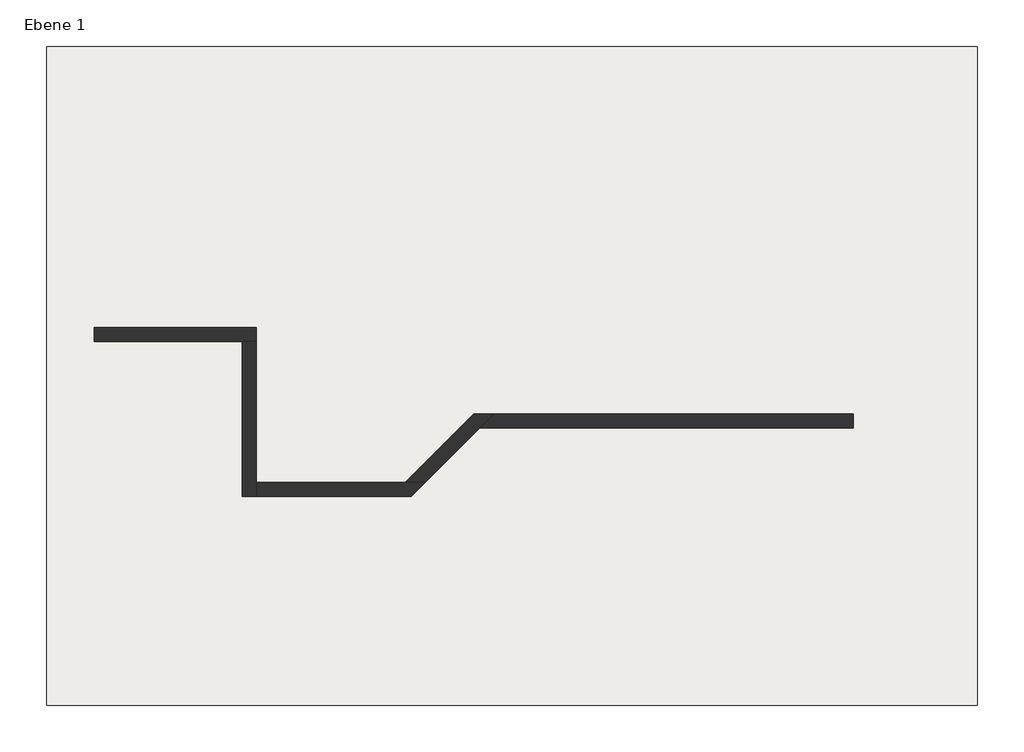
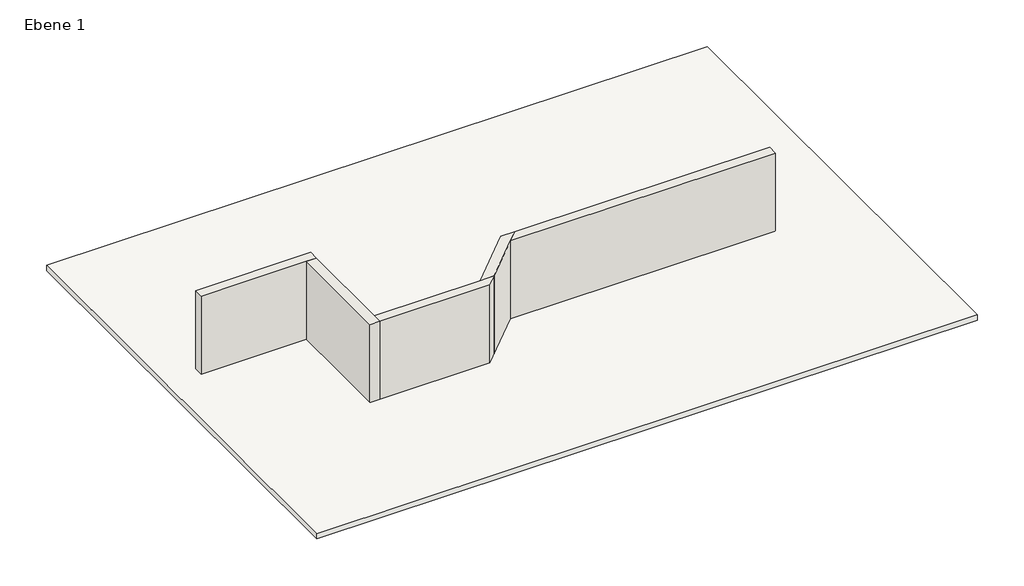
# One storey: 5 walls, 1 slab.
"""IFC4 building model written with IfcOpenShell, lengths in millimetres."""

from ifc_helpers import new_model, si_unit, frame, origin, place, context, project, spatial, polyline, outline, extrude, faceted_brep, element, save

model = new_model("IFC4")

# Units and contexts
model_context = context("Model", 3, world=origin())
ifc_project = project(units=[si_unit("LENGTHUNIT", "METRE", prefix="MILLI")], contexts=[model_context])

# Site, building, storey
site = spatial("IfcSite", under=ifc_project)
building = spatial("IfcBuilding", under=site)
storey = spatial("IfcBuildingStorey", under=building, Name="Ebene 1", Elevation=3000.0)

# Slab
placement = place(None, origin())
element("IfcSlab", 1, ObjectType="STB 20.0", at=placement, inside=storey, context=model_context, shape_type="SweptSolid", body=[
    extrude(outline(polyline([(11887.0989468, 9457.1393302), (11887.0989468, -7542.8606698), (-12112.9010532, -7542.8606698), (-12112.9010532, 9457.1393302), (11887.0989468, 9457.1393302)])), frame((0.0, 0.0, 2800.0), z_axis=(0.0, 0.0, 1.0), x_axis=(1.0, 0.0, 0.0)), (0.0, 0.0, 1.0), 200.0),
])

# Walls
element("IfcWall", 2, ObjectType="MW 24.0 WD 12.0", at=placement, inside=storey, context=model_context, shape_type="Brep", body=[
    faceted_brep([(-10886.8777954, 1847.7263672, 3000.0), (-7066.8777954, 1847.7263672, 3000.0), (-6706.8777954, 1847.7263672, 3000.0), (-6706.8777954, 1847.7263672, 6000.0), (-7066.8777954, 1847.7263672, 6000.0), (-10886.8777954, 1847.7263672, 6000.0), (-10886.8777954, 2207.7263672, 3000.0), (-10886.8777954, 2207.7263672, 6000.0), (-6706.8777954, 2207.7263672, 6000.0), (-6706.8777954, 2207.7263672, 3000.0)], [[[0, 1, 2, 3, 4, 5]], [[6, 7, 8, 9]], [[2, 1, 0, 6, 9]], [[5, 4, 3, 8, 7]], [[0, 5, 7, 6]], [[3, 2, 9, 8]]]),
])
element("IfcWall", 3, ObjectType="MW 24.0 WD 12.0", at=placement, inside=storey, context=model_context, shape_type="Brep", body=[
    faceted_brep([(-7066.8777954, 1847.7263672, 3000.0), (-7066.8777954, -2152.2736328, 3000.0), (-7066.8777954, -2152.2736328, 6000.0), (-7066.8777954, 1847.7263672, 6000.0), (-6706.8777954, 1847.7263672, 3000.0), (-6706.8777954, 1847.7263672, 6000.0), (-6706.8777954, -1792.2736328, 6000.0), (-6706.8777954, -2152.2736328, 6000.0), (-6706.8777954, -2152.2736328, 3000.0), (-6706.8777954, -1792.2736328, 3000.0)], [[[0, 1, 2, 3]], [[4, 5, 6, 7, 8, 9]], [[1, 0, 4, 9, 8]], [[3, 2, 7, 6, 5]], [[0, 3, 5, 4]], [[2, 1, 8, 7]]]),
])
element("IfcWall", 4, ObjectType="MW 24.0 WD 12.0", at=placement, inside=storey, context=model_context, shape_type="Brep", body=[
    faceted_brep([(-6706.8777954, -2152.2736328, 3000.0), (-2712.3193542, -2152.2736328, 3000.0), (-2712.3193542, -2152.2736328, 6000.0), (-6706.8777954, -2152.2736328, 6000.0), (-6706.8777954, -1792.2736328, 3000.0), (-6706.8777954, -1792.2736328, 6000.0), (-2861.4362366, -1792.2736328, 6000.0), (-2352.3193542, -1792.2736328, 6000.0), (-2352.3193542, -1792.2736328, 3000.0), (-2861.4362366, -1792.2736328, 3000.0)], [[[0, 1, 2, 3]], [[4, 5, 6, 7, 8, 9]], [[1, 0, 4, 9, 8]], [[3, 2, 7, 6, 5]], [[0, 3, 5, 4]], [[2, 1, 8, 7]]]),
])
element("IfcWall", 5, ObjectType="MW 24.0 WD 12.0", at=placement, inside=storey, context=model_context, shape_type="Brep", body=[
    faceted_brep([(-2352.3193542, -1792.2736328, 3000.0), (-944.5524012, -384.5066798, 3000.0), (-584.5524012, -24.5066798, 3000.0), (-584.5524012, -24.5066798, 6000.0), (-944.5524012, -384.5066798, 6000.0), (-2352.3193542, -1792.2736328, 6000.0), (-2861.4362366, -1792.2736328, 3000.0), (-2861.4362366, -1792.2736328, 6000.0), (-1093.6692837, -24.5066798, 6000.0), (-1093.6692837, -24.5066798, 3000.0)], [[[0, 1, 2, 3, 4, 5]], [[6, 7, 8, 9]], [[2, 1, 0, 6, 9]], [[5, 4, 3, 8, 7]], [[0, 5, 7, 6]], [[3, 2, 9, 8]]]),
])
element("IfcWall", 6, ObjectType="MW 24.0 WD 12.0", at=placement, inside=storey, context=model_context, shape_type="SweptSolid", body=[
    extrude(outline(polyline([(8680.8891576, -384.5066798), (-944.5524012, -384.5066798), (-584.5524012, -24.5066798), (8680.8891576, -24.5066798), (8680.8891576, -384.5066798)])), frame((0.0, 0.0, 3000.0), z_axis=(0.0, 0.0, 1.0), x_axis=(1.0, 0.0, 0.0)), (0.0, 0.0, 1.0), 3000.0),
])

save(model, "model.ifc")
